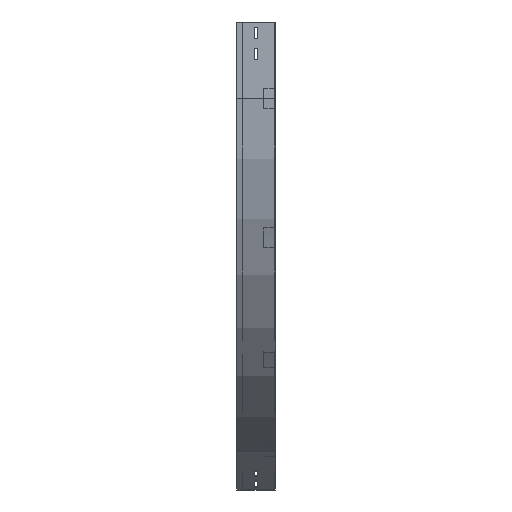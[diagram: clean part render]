
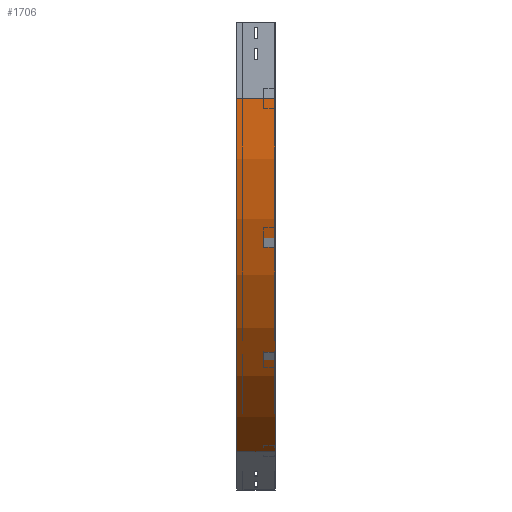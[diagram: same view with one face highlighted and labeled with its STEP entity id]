
A CAD part, left-side view. The second image highlights one B-rep face of the part: STEP entity #1706.
In plain terms, the highlighted cylindrical face has radius 800 mm (diameter 1600 mm), a partial arc.
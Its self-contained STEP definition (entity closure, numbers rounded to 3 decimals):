
#263 = VECTOR ( 'NONE', #1892, 1000. ) ;
#272 = DIRECTION ( 'NONE',  ( 0., -1., 0. ) ) ;
#301 = LINE ( 'NONE', #2021, #1385 ) ;
#344 = EDGE_CURVE ( 'NONE', #2217, #1696, #701, .T. ) ;
#354 = CYLINDRICAL_SURFACE ( 'NONE', #3489, 800. ) ;
#476 = LINE ( 'NONE', #1108, #263 ) ;
#566 = CARTESIAN_POINT ( 'NONE',  ( 800., 0., -150. ) ) ;
#617 = DIRECTION ( 'NONE',  ( 0., -1., 0. ) ) ;
#701 = CIRCLE ( 'NONE', #2451, 800. ) ;
#733 = ORIENTED_EDGE ( 'NONE', *, *, #344, .T. ) ;
#1028 = VERTEX_POINT ( 'NONE', #3757 ) ;
#1108 = CARTESIAN_POINT ( 'NONE',  ( 0., 0., -150. ) ) ;
#1385 = VECTOR ( 'NONE', #617, 1000. ) ;
#1408 = DIRECTION ( 'NONE',  ( -1., 0., 0. ) ) ;
#1493 = VERTEX_POINT ( 'NONE', #2830 ) ;
#1520 = EDGE_CURVE ( 'NONE', #1696, #1028, #301, .T. ) ;
#1569 = CIRCLE ( 'NONE', #2742, 800. ) ;
#1696 = VERTEX_POINT ( 'NONE', #3354 ) ;
#1706 = ADVANCED_FACE ( 'NONE', ( #3065 ), #354, .T. ) ;
#1794 = EDGE_CURVE ( 'NONE', #2217, #1493, #476, .T. ) ;
#1824 = DIRECTION ( 'NONE',  ( 0., -1., 0. ) ) ;
#1892 = DIRECTION ( 'NONE',  ( 0., -1., 0. ) ) ;
#2021 = CARTESIAN_POINT ( 'NONE',  ( 400., 0., -842.82 ) ) ;
#2121 = ORIENTED_EDGE ( 'NONE', *, *, #1794, .F. ) ;
#2217 = VERTEX_POINT ( 'NONE', #3740 ) ;
#2364 = EDGE_CURVE ( 'NONE', #1493, #1028, #1569, .T. ) ;
#2451 = AXIS2_PLACEMENT_3D ( 'NONE', #3725, #2823, #2522 ) ;
#2522 = DIRECTION ( 'NONE',  ( -1., 0., 0. ) ) ;
#2700 = CARTESIAN_POINT ( 'NONE',  ( 800., 0., -150. ) ) ;
#2742 = AXIS2_PLACEMENT_3D ( 'NONE', #566, #272, #1408 ) ;
#2823 = DIRECTION ( 'NONE',  ( 0., -1., 0. ) ) ;
#2830 = CARTESIAN_POINT ( 'NONE',  ( 0., 0., -150. ) ) ;
#2918 = EDGE_LOOP ( 'NONE', ( #3578, #2121, #733, #3457 ) ) ;
#3065 = FACE_OUTER_BOUND ( 'NONE', #2918, .T. ) ;
#3354 = CARTESIAN_POINT ( 'NONE',  ( 400., 75., -842.82 ) ) ;
#3457 = ORIENTED_EDGE ( 'NONE', *, *, #1520, .T. ) ;
#3489 = AXIS2_PLACEMENT_3D ( 'NONE', #2700, #1824, #3611 ) ;
#3578 = ORIENTED_EDGE ( 'NONE', *, *, #2364, .F. ) ;
#3611 = DIRECTION ( 'NONE',  ( 0., 0., -1. ) ) ;
#3725 = CARTESIAN_POINT ( 'NONE',  ( 800., 75., -150. ) ) ;
#3740 = CARTESIAN_POINT ( 'NONE',  ( 0., 75., -150. ) ) ;
#3757 = CARTESIAN_POINT ( 'NONE',  ( 400., 0., -842.82 ) ) ;
